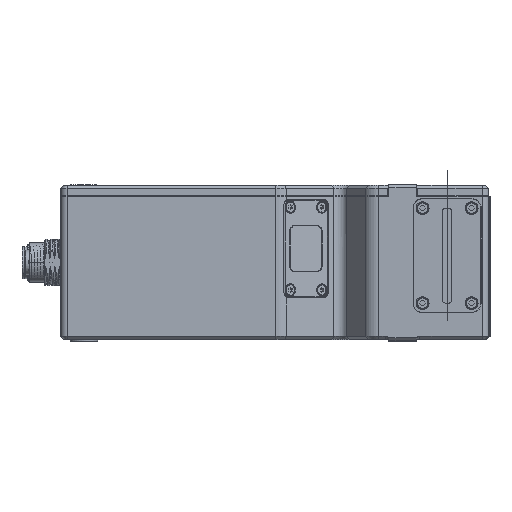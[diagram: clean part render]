
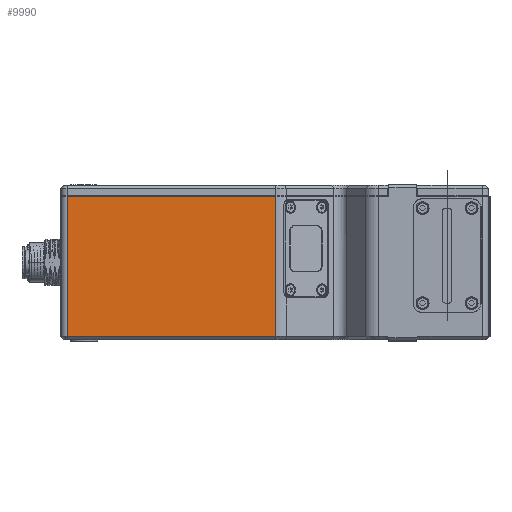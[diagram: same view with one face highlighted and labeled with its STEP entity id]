
A CAD part, top view. The second image highlights one B-rep face of the part: STEP entity #9990.
In plain terms, the highlighted planar face has unit normal (0, 0, -1).
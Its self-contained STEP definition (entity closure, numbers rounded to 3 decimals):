
#5528=DIRECTION('',(1.,0.,0.));
#5529=VECTOR('',#5528,68.108);
#5530=CARTESIAN_POINT('',(44.216,-21.3,179.243));
#5531=LINE('',#5530,#5529);
#5930=DIRECTION('',(0.,1.,0.));
#5931=VECTOR('',#5930,45.7);
#5932=CARTESIAN_POINT('',(112.324,-67.,179.243));
#5933=LINE('',#5932,#5931);
#5960=DIRECTION('',(1.,0.,0.));
#5961=VECTOR('',#5960,68.108);
#5962=CARTESIAN_POINT('',(44.216,-67.,179.243));
#5963=LINE('',#5962,#5961);
#5964=DIRECTION('',(0.,-1.,0.));
#5965=VECTOR('',#5964,45.7);
#5966=CARTESIAN_POINT('',(44.216,-21.3,179.243));
#5967=LINE('',#5966,#5965);
#8069=CARTESIAN_POINT('',(112.324,-67.,179.243));
#8070=VERTEX_POINT('',#8069);
#8071=CARTESIAN_POINT('',(44.216,-67.,179.243));
#8072=VERTEX_POINT('',#8071);
#8174=CARTESIAN_POINT('',(112.324,-21.3,179.243));
#8175=VERTEX_POINT('',#8174);
#8176=CARTESIAN_POINT('',(44.216,-21.3,179.243));
#8177=VERTEX_POINT('',#8176);
#9978=CARTESIAN_POINT('',(78.27,-44.15,179.243));
#9979=DIRECTION('',(0.,0.,1.));
#9980=DIRECTION('',(1.,0.,0.));
#9981=AXIS2_PLACEMENT_3D('',#9978,#9979,#9980);
#9982=PLANE('',#9981);
#9983=ORIENTED_EDGE('',*,*,#9779,.T.);
#9984=ORIENTED_EDGE('',*,*,#9941,.T.);
#9985=ORIENTED_EDGE('',*,*,#9551,.F.);
#9987=ORIENTED_EDGE('',*,*,#9986,.T.);
#9988=EDGE_LOOP('',(#9983,#9984,#9985,#9987));
#9989=FACE_OUTER_BOUND('',#9988,.F.);
#9551=EDGE_CURVE('',#8177,#8175,#5531,.T.);
#9779=EDGE_CURVE('',#8072,#8070,#5963,.T.);
#9941=EDGE_CURVE('',#8070,#8175,#5933,.T.);
#9986=EDGE_CURVE('',#8177,#8072,#5967,.T.);
#9990=ADVANCED_FACE('',(#9989),#9982,.F.);
